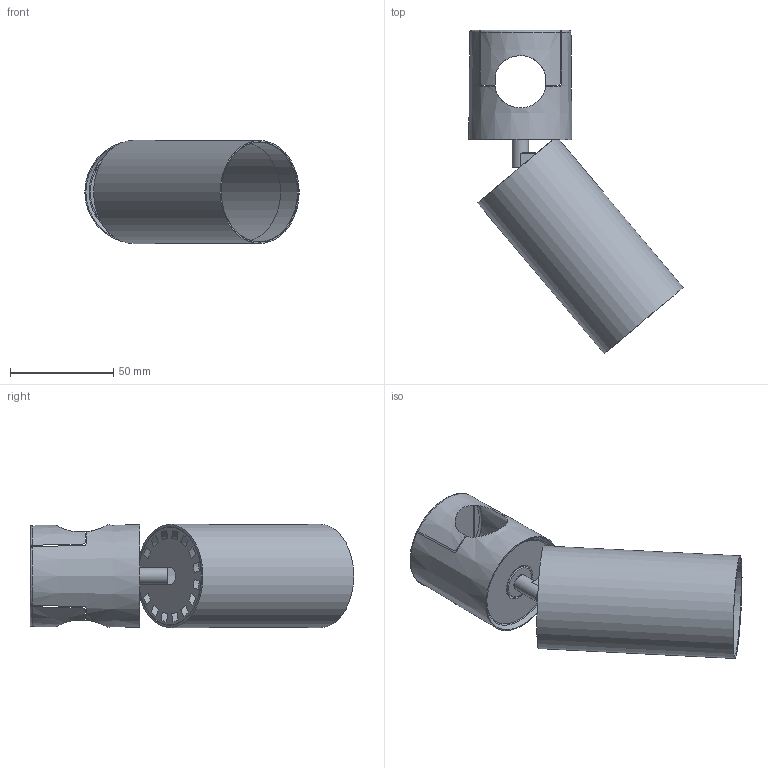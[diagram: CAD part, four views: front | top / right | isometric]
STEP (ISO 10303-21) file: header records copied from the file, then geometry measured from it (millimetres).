
FILE_DESCRIPTION(/* description */ (''),/* implementation_level */ '2;1');
FILE_NAME(/* name */ 'S:\UFFICIO TECNICO 2019\PRODOTTI ROTALIANA\SOUVLAKI\CONFIGURATORE\FILES X CONFIGURATORE\ipt INVENTOR\ASVS1_faretto orientabile da binario Ø50mm.stp',/* time_stamp */ '2024-03-13T10:17:14+01:00',/* author */ ('mtesta'),/* organization */ (''),/* preprocessor_version */ 'ST-DEVELOPER v18.1',/* originating_system */ 'Autodesk Inventor 2021',/* authorisation */ '');
FILE_SCHEMA (('AUTOMOTIVE_DESIGN { 1 0 10303 214 3 1 1 }'));
Length unit declared in the file: millimetre
Products named in the file (1): A2618
Bounding box: 103.96 x 156.9 x 50 mm (x, y, z)
Surface area: 30116.2 mm2 (no closed solid volume)
Topology: 0 solids, 8 shells, 44 faces, 303 edges, 262 vertices
Faces by surface type: plane 14, bspline 9, cylinder 9, cone 6, torus 6
Full cylindrical faces by diameter (mm): 8 x1, 48.2 x1, 50 x1
Entity records: 3893 total; most frequent: CARTESIAN_POINT 1667, DIRECTION 408, ORIENTED_EDGE 370, EDGE_CURVE 300, VERTEX_POINT 262, AXIS2_PLACEMENT_3D 164, B_SPLINE_CURVE_WITH_KNOTS 84, LINE 80
